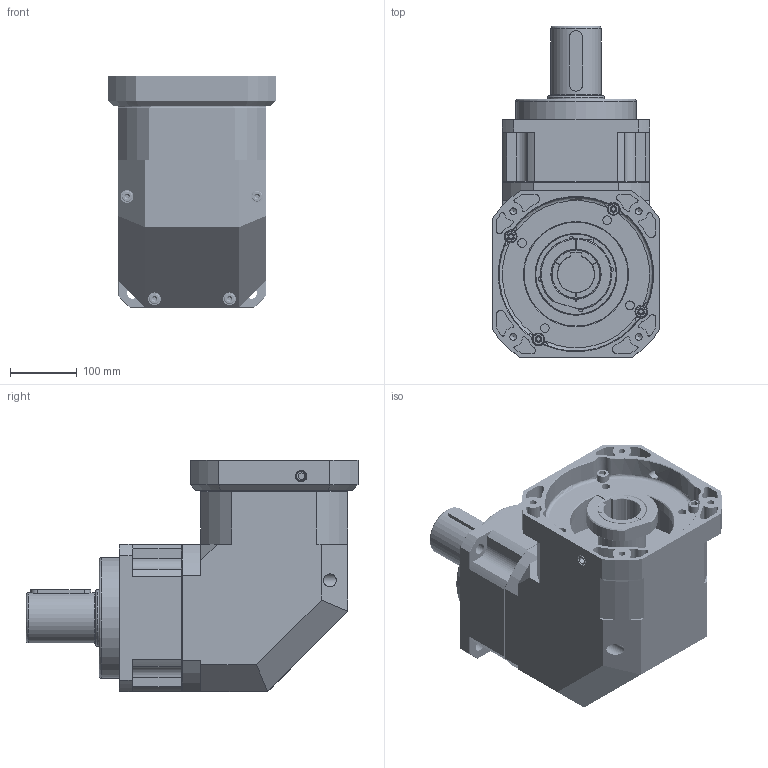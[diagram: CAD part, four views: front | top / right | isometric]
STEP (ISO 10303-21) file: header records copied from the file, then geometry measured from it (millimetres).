
FILE_DESCRIPTION((''),'2;1');
FILE_NAME('C:\Work\감속기 카다로그 도면\ATG Reducer(홈페이지)\KSBL\KSBL-220-1.stp','2014-04-09T13:56:53',('young'),(''),'Autodesk Inventor 2012','Autodesk Inventor 2012','');
FILE_SCHEMA(('AUTOMOTIVE_DESIGN { 1 0 10303 214 1 1 1 1 }'));
Length unit declared in the file: millimetre
Products named in the file (3): KSBL-220-1; KSBL-220-1-BK
Assembly tree (2 placements, depth 2):
  KSBL-220-1
    KSBL-220-1
    KSBL-220-1-BK
Bounding box: 250 x 495.6 x 345 mm (x, y, z)
Volume: 11366332 mm3; surface area: 1184489.5 mm2
Topology: 21 solids, 21 shells, 989 faces, 2987 edges, 2080 vertices
Faces by surface type: cylinder 432, plane 382, cone 103, bspline 51, torus 21
Full cylindrical faces by diameter (mm): 7 x4, 8.6 x1, 10 x205, 10.2 x12, 11 x1, 12 x4, 13 x12, 14 x1, 14.275 x2, 14.5 x2, 16 x6, 17 x4, 18 x4, 19 x4, 60 x1, 66 x1, 70 x1, 72 x1, 72.2 x1, 74.8 x1, 75 x1, 84.8 x1, 85 x1, 88 x1, 90 x3, 104.992 x1, 115 x2, 142 x2, 155 x1, 179.34 x1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
Entity records: 72000 total; most frequent: CARTESIAN_POINT 50735, ORIENTED_EDGE 5126, DIRECTION 3661, EDGE_CURVE 2563, VERTEX_POINT 2035, AXIS2_PLACEMENT_3D 1416, EDGE_LOOP 1062, VECTOR 829
